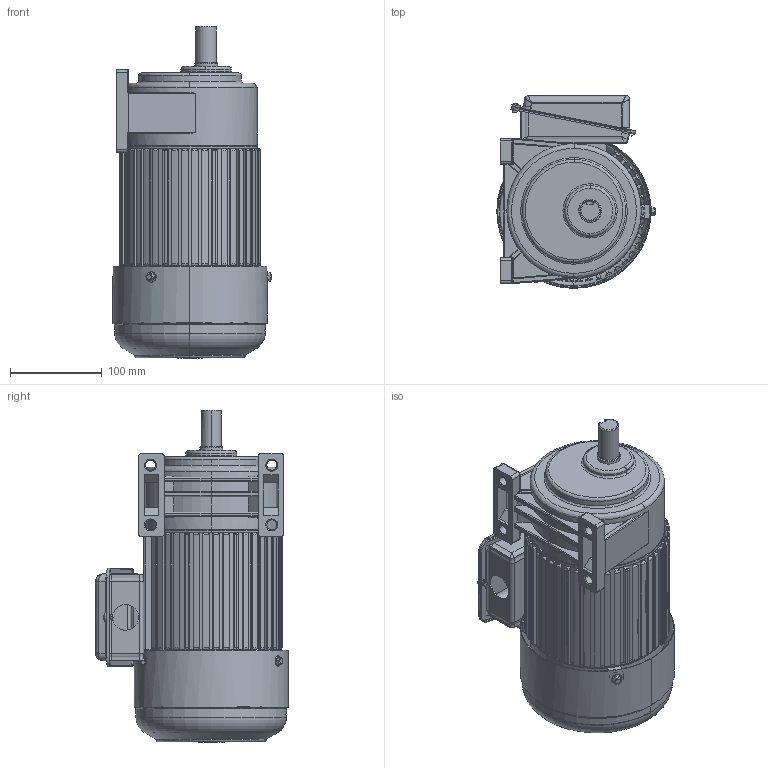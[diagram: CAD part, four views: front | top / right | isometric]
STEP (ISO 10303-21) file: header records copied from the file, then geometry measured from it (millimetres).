
FILE_DESCRIPTION (( 'STEP AP203' ), '1' );
FILE_NAME ('单相400W2#卧式.STEP', '2015-10-31T04:33:30', ( '微软中国' ), ( '微软用户' ), 'SwSTEP 2.0', 'SolidWorks 2009', '' );
FILE_SCHEMA (( 'CONFIG_CONTROL_DESIGN' ));
Products named in the file (11): 400W儂褲; 等眈諉盄碟裔; 等眈諉盄碟釱; Cross recessed pan head screws GB_GB_CROSS_SCREWS_TYPE1 M5X6-6  H type-N; 等眈400W2#拏宒; 2#拏宒熬厒ん; 等眈400W; 鞠褒蹟邡_GB_FASTENER_BOLT_HFBB M5X10-N; 棠憤迖殤400W; 等眈 瑞欶400W; 等眈諉盄碟窒璃
Assembly tree (12 placements, depth 4):
  等眈400W2#拏宒
    2#拏宒熬厒ん
    等眈400W
      鞠褒蹟邡_GB_FASTENER_BOLT_HFBB M5X10-N  x3
      等眈諉盄碟窒璃
        Cross recessed pan head screws GB_GB_CROSS_SCREWS_TYPE1 M5X6-6  H type-N
        等眈諉盄碟釱
        等眈諉盄碟裔
      等眈 瑞欶400W
      400W儂褲
      棠憤迖殤400W
Bounding box: 171.97 x 209.39 x 361 mm (x, y, z)
Volume: 2111305.9 mm3; surface area: 583427.7 mm2
Topology: 10 solids, 10 shells, 1459 faces, 4021 edges, 2602 vertices
Faces by surface type: plane 733, cylinder 471, bspline 185, cone 34, torus 34, sphere 2
Entity records: 53875 total; most frequent: CARTESIAN_POINT 17311, ORIENTED_EDGE 7810, DIRECTION 6741, EDGE_CURVE 3905, VERTEX_POINT 2542, VECTOR 2317, LINE 2317, AXIS2_PLACEMENT_3D 2212
